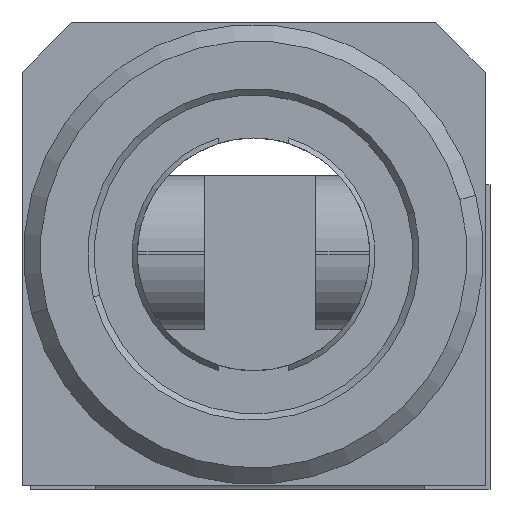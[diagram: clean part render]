
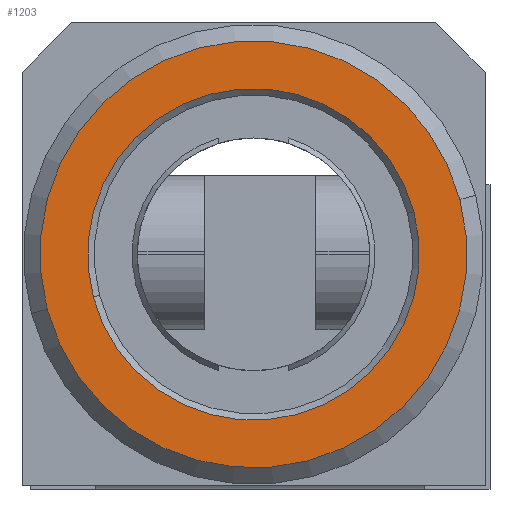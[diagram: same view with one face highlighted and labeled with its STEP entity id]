
A CAD part, front view. The second image highlights one B-rep face of the part: STEP entity #1203.
In plain terms, the highlighted planar face has unit normal (0, -1, 0).
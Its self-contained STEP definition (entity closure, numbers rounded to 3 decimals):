
#35 = CARTESIAN_POINT ( 'NONE',  ( -5.05, -28., 0. ) ) ;
#63 = CARTESIAN_POINT ( 'NONE',  ( 0., -28., 0. ) ) ;
#111 = EDGE_LOOP ( 'NONE', ( #1561, #2329 ) ) ;
#153 = ORIENTED_EDGE ( 'NONE', *, *, #1979, .F. ) ;
#174 = CARTESIAN_POINT ( 'NONE',  ( 0., -28., 0. ) ) ;
#288 = CIRCLE ( 'NONE', #1822, 6.5 ) ;
#290 = DIRECTION ( 'NONE',  ( 0., 1., 0. ) ) ;
#299 = DIRECTION ( 'NONE',  ( 1., 0., 0. ) ) ;
#413 = DIRECTION ( 'NONE',  ( -1., 0., 0. ) ) ;
#439 = CIRCLE ( 'NONE', #1500, 5.05 ) ;
#574 = FACE_BOUND ( 'NONE', #111, .T. ) ;
#1032 = CARTESIAN_POINT ( 'NONE',  ( 0., -28., 0. ) ) ;
#1097 = ORIENTED_EDGE ( 'NONE', *, *, #2359, .F. ) ;
#1203 = ADVANCED_FACE ( 'NONE', ( #1228, #574 ), #2077, .T. ) ;
#1228 = FACE_OUTER_BOUND ( 'NONE', #2592, .T. ) ;
#1284 = DIRECTION ( 'NONE',  ( -1., 0., 0. ) ) ;
#1500 = AXIS2_PLACEMENT_3D ( 'NONE', #63, #1742, #299 ) ;
#1536 = DIRECTION ( 'NONE',  ( 0., -1., 0. ) ) ;
#1560 = AXIS2_PLACEMENT_3D ( 'NONE', #174, #1865, #413 ) ;
#1561 = ORIENTED_EDGE ( 'NONE', *, *, #2857, .T. ) ;
#1738 = CARTESIAN_POINT ( 'NONE',  ( 0., -28., 0. ) ) ;
#1742 = DIRECTION ( 'NONE',  ( 0., 1., 0. ) ) ;
#1775 = DIRECTION ( 'NONE',  ( 0., 0., -1. ) ) ;
#1822 = AXIS2_PLACEMENT_3D ( 'NONE', #1032, #2722, #1284 ) ;
#1865 = DIRECTION ( 'NONE',  ( 0., 1., 0. ) ) ;
#1874 = AXIS2_PLACEMENT_3D ( 'NONE', #1738, #290, #1983 ) ;
#1879 = CIRCLE ( 'NONE', #1874, 5.05 ) ;
#1979 = EDGE_CURVE ( 'NONE', #3032, #2805, #2305, .T. ) ;
#1983 = DIRECTION ( 'NONE',  ( 1., 0., 0. ) ) ;
#2025 = CARTESIAN_POINT ( 'NONE',  ( 0., -28., 0. ) ) ;
#2056 = AXIS2_PLACEMENT_3D ( 'NONE', #2025, #1536, #1775 ) ;
#2077 = PLANE ( 'NONE',  #2056 ) ;
#2109 = CARTESIAN_POINT ( 'NONE',  ( 5.05, -28., 0. ) ) ;
#2208 = VERTEX_POINT ( 'NONE', #35 ) ;
#2305 = CIRCLE ( 'NONE', #1560, 6.5 ) ;
#2314 = EDGE_CURVE ( 'NONE', #2208, #2627, #439, .T. ) ;
#2329 = ORIENTED_EDGE ( 'NONE', *, *, #2314, .T. ) ;
#2359 = EDGE_CURVE ( 'NONE', #2805, #3032, #288, .T. ) ;
#2592 = EDGE_LOOP ( 'NONE', ( #1097, #153 ) ) ;
#2627 = VERTEX_POINT ( 'NONE', #2109 ) ;
#2684 = CARTESIAN_POINT ( 'NONE',  ( -6.5, -28., 0. ) ) ;
#2722 = DIRECTION ( 'NONE',  ( 0., 1., 0. ) ) ;
#2796 = CARTESIAN_POINT ( 'NONE',  ( 6.5, -28., 0. ) ) ;
#2805 = VERTEX_POINT ( 'NONE', #2684 ) ;
#2857 = EDGE_CURVE ( 'NONE', #2627, #2208, #1879, .T. ) ;
#3032 = VERTEX_POINT ( 'NONE', #2796 ) ;
